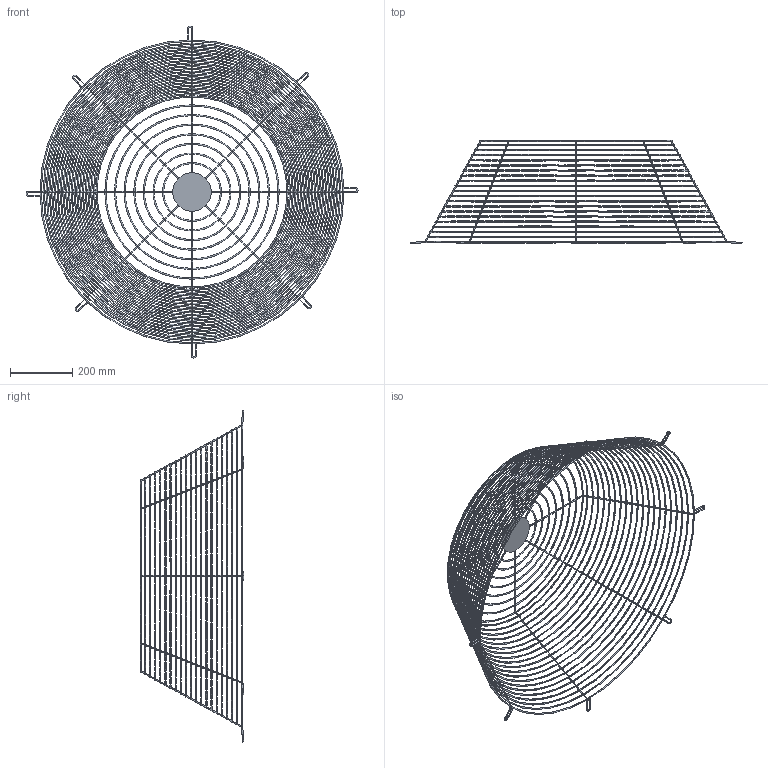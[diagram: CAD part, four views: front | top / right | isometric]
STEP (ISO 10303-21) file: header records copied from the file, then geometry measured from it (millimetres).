
FILE_DESCRIPTION(('STEP AP214'),'1');
FILE_NAME('accessory_5138827000.stp','2017-10-09T10:18:17',('TraceParts'),('TraceParts S.A.'),'Spatial InterOp 3D',' ',' ');
FILE_SCHEMA(('automotive_design'));
Length unit declared in the file: millimetre
Products named in the file (1): accessory_5138827000
Bounding box: 1070 x 332 x 1070 mm (x, y, z)
Volume: 875353.5 mm3; surface area: 845518.2 mm2
Topology: 1 solids, 1 shells, 364 faces, 2258 edges, 1422 vertices
Faces by surface type: torus 176, cylinder 122, plane 50, sphere 16
Entity records: 48545 total; most frequent: CARTESIAN_POINT 30262, ORIENTED_EDGE 4452, DIRECTION 2250, EDGE_CURVE 2226, VERTEX_POINT 1422, B_SPLINE_CURVE_WITH_KNOTS 1284, AXIS2_PLACEMENT_3D 943, CIRCLE 562
